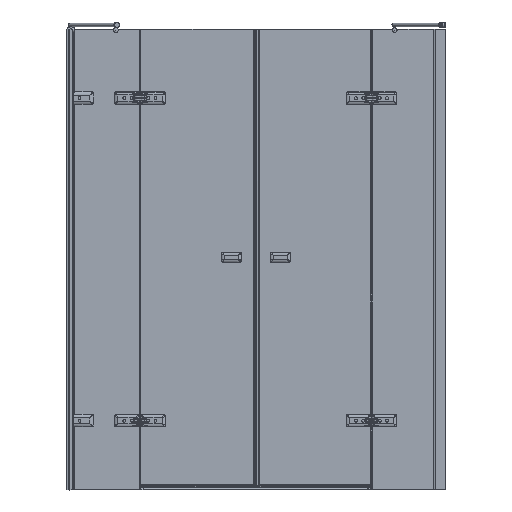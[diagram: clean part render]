
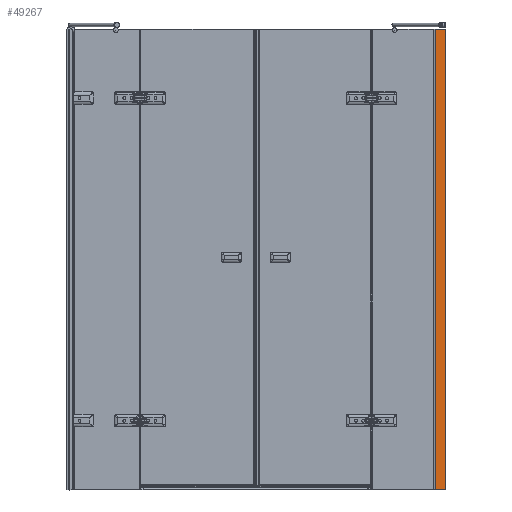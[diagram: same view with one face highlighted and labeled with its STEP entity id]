
A CAD part, left-side view. The second image highlights one B-rep face of the part: STEP entity #49267.
In plain terms, the highlighted planar face has unit normal (-1, 0, 0).
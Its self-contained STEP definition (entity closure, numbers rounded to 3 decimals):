
#4333=LINE($,#114558,#8348);
#4580=LINE($,#115239,#8595);
#4581=LINE($,#115240,#8596);
#4582=LINE($,#115241,#8597);
#8348=VECTOR($,#64986,44.25);
#8595=VECTOR($,#65779,44.25);
#8596=VECTOR($,#65780,2000.);
#8597=VECTOR($,#65781,2000.);
#12989=FACE_OUTER_BOUND($,#15987,.T.);
#15987=EDGE_LOOP($,(#41648,#41649,#41650,#41651));
#21983=VERTEX_POINT($,#114555);
#21984=VERTEX_POINT($,#114557);
#22095=VERTEX_POINT($,#115237);
#22096=VERTEX_POINT($,#115238);
#28380=EDGE_CURVE($,#21984,#21983,#4333,.T.);
#28684=EDGE_CURVE($,#22095,#22096,#4580,.T.);
#28685=EDGE_CURVE($,#21984,#22096,#4581,.T.);
#28686=EDGE_CURVE($,#22095,#21983,#4582,.T.);
#41648=ORIENTED_EDGE($,*,*,#28684,.T.);
#41649=ORIENTED_EDGE($,*,*,#28685,.F.);
#41650=ORIENTED_EDGE($,*,*,#28380,.T.);
#41651=ORIENTED_EDGE($,*,*,#28686,.F.);
#44045=PLANE($,#53532);
#49267=ADVANCED_FACE($,(#12989),#44045,.F.);
#53532=AXIS2_PLACEMENT_3D($,#115236,#65777,#65778);
#64986=DIRECTION($,(0.,1.,0.));
#65777=DIRECTION('center_axis',(1.,0.,0.));
#65778=DIRECTION('ref_axis',(0.,1.,0.));
#65779=DIRECTION($,(0.,-1.,0.));
#65780=DIRECTION($,(0.,0.,-1.));
#65781=DIRECTION($,(0.,0.,1.));
#114555=CARTESIAN_POINT('',(1306.447,-1997.394,1485.944));
#114557=CARTESIAN_POINT('',(1306.447,-2041.644,1485.944));
#114558=CARTESIAN_POINT($,(1306.447,-2041.644,1485.944));
#115236=CARTESIAN_POINT('Origin',(1306.447,-2039.644,-514.056));
#115237=CARTESIAN_POINT('',(1306.447,-1997.394,-514.056));
#115238=CARTESIAN_POINT('',(1306.447,-2041.644,-514.056));
#115239=CARTESIAN_POINT($,(1306.447,-2027.644,-514.056));
#115240=CARTESIAN_POINT($,(1306.447,-2041.644,1485.944));
#115241=CARTESIAN_POINT($,(1306.447,-1997.394,-514.056));
